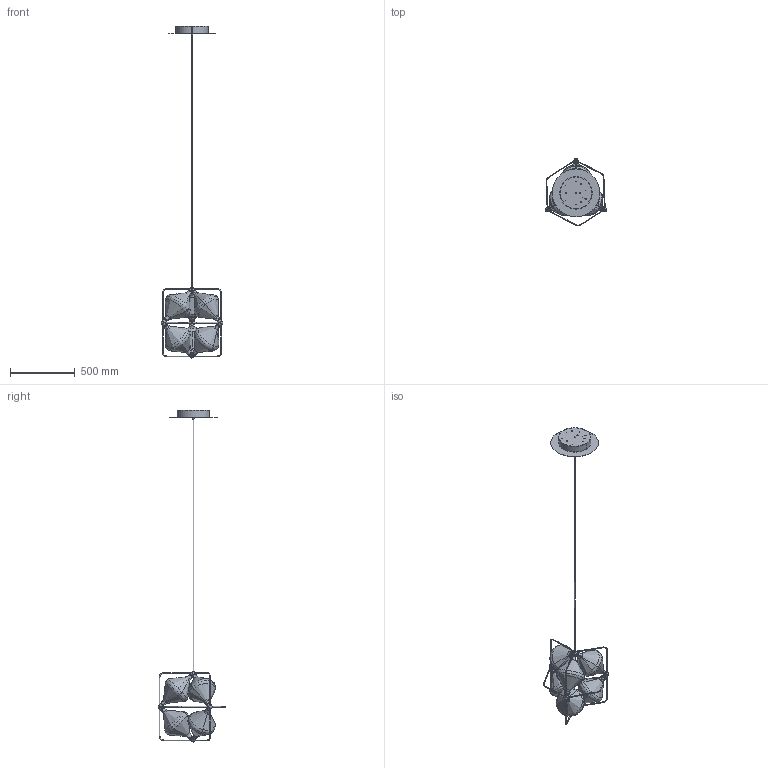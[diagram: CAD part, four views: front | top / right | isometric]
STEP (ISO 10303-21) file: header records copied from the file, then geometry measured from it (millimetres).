
FILE_DESCRIPTION(/* description */ (''),/* implementation_level */ '2;1');
FILE_NAME(/* name */ 'D:\Users\boris.ha\Desktop\Collections\Clovers\Pendant1\Clovers_P1.stp',/* time_stamp */ '2017-11-06T11:21:49+01:00',/* author */ ('boris.ha'),/* organization */ (''),/* preprocessor_version */ 'ST-DEVELOPER v16.13',/* originating_system */ 'Autodesk Inventor 2018',/* authorisation */ '');
FILE_SCHEMA (('AUTOMOTIVE_DESIGN { 1 0 10303 214 3 1 1 }'));
Products named in the file (1): Clovers_P1
Bounding box: 476.97 x 526.14 x 2569.97 mm (x, y, z)
Volume: 2787597.5 mm3; surface area: 2368155.8 mm2
Topology: 55 solids, 55 shells, 1018 faces, 2566 edges, 1702 vertices
Faces by surface type: plane 556, cylinder 284, bspline 87, cone 40, torus 39, sphere 12
Full cylindrical faces by diameter (mm): 0.05 x2, 1.2 x1, 2 x2, 2.459 x4, 3 x18, 3.242 x33, 3.5 x6, 4 x3, 4.134 x1, 5 x1, 6 x18, 6.05 x11, 6.1 x6, 7.5 x3, 8 x6, 9 x1, 9.2 x1, 10 x4, 11 x12, 12.5 x2, 14 x2, 14.5 x1, 15 x12, 16 x1, 16.2 x12, 17 x1, 18 x2, 18.2 x1, 21 x24, 25 x24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
Entity records: 50902 total; most frequent: CARTESIAN_POINT 27353, DIRECTION 4423, ORIENTED_EDGE 4150, EDGE_CURVE 2075, AXIS2_PLACEMENT_3D 1664, EDGE_LOOP 1634, VERTEX_POINT 1585, LINE 1095
